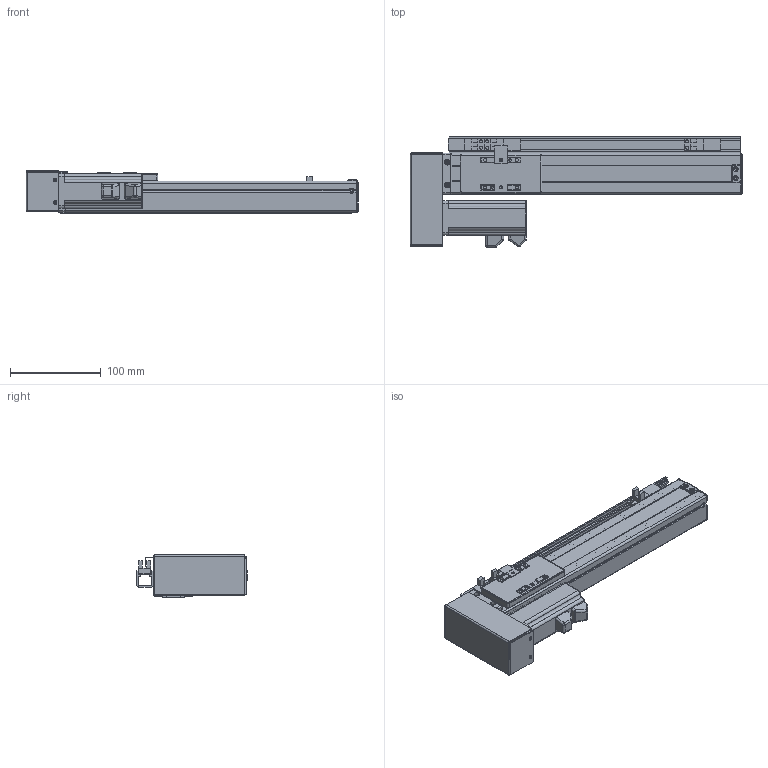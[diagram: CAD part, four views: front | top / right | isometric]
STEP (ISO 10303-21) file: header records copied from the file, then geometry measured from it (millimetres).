
FILE_DESCRIPTION (( 'STEP AP203' ), '1' );
FILE_NAME ('VT4-S200-BL.STEP', '2016-06-17T09:19:25', ( '' ), ( '' ), 'SwSTEP 2.0', 'SolidWorks 2013', '' );
FILE_SCHEMA (( 'CONFIG_CONTROL_DESIGN' ));
Length unit declared in the file: millimetre
Products named in the file (17): T6-癹弇羲壽羞_俴最200; T4-揤輸; EE-SX674-WR; SFKR0802佪裝TBI_俴最200; T4-覜茼え; MGW12C-絳寢_俴最200; 侂狟100W MSMD012G1U; T4-BLRM 粣創釱; VT4-S200-BL; T4-BLRM ヶ傷揤輸_A6061; T4-綴傷裔; 詩湍; T4-耜啣羲耀芞2_俴最200; T4-BLR 萇儂欶; T4-賑雄殤; T4-BLR 100w萇儂假蚾啣_A6061; T4-裔啣
Assembly tree (19 placements, depth 2):
  VT4-S200-BL
    T4-綴傷裔
    T4-耜啣羲耀芞2_俴最200  x2
    T4-賑雄殤
    T4-裔啣
    T4-揤輸
    SFKR0802佪裝TBI_俴最200
    MGW12C-絳寢_俴最200
    T4-BLRM 粣創釱
    T4-BLRM ヶ傷揤輸_A6061
    詩湍
    T4-BLR 萇儂欶
    T4-BLR 100w萇儂假蚾啣_A6061
    T6-癹弇羲壽羞_俴最200
    EE-SX674-WR  x3
    T4-覜茼え
    侂狟100W MSMD012G1U
Bounding box: 365 x 121.25 x 47.25 mm (x, y, z)
Volume: 401495.8 mm3; surface area: 279451.1 mm2
Topology: 22 solids, 22 shells, 1222 faces, 3266 edges, 2065 vertices
Faces by surface type: plane 563, cylinder 544, cone 57, torus 30, sphere 20, bspline 8
Entity records: 34433 total; most frequent: CARTESIAN_POINT 6561, DIRECTION 5582, ORIENTED_EDGE 5308, EDGE_CURVE 2654, AXIS2_PLACEMENT_3D 1998, VERTEX_POINT 1699, VECTOR 1586, LINE 1586
